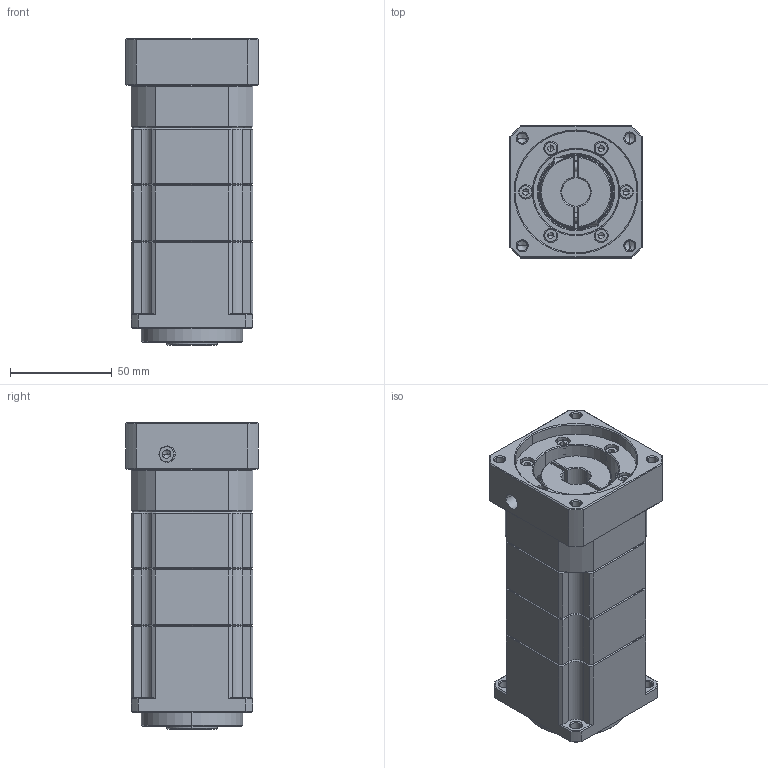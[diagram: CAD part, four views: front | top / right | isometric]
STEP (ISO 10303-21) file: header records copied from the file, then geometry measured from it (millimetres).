
FILE_DESCRIPTION (( 'STEP AP214' ), '1' );
FILE_NAME ('ZPB060-K16-L3-P1-14-60-75-M6.step', '2024-04-24T07:37:46', ( '' ), ( '' ), 'SwSTEP 2.0', 'SolidWorks 2016', '' );
FILE_SCHEMA (( 'AUTOMOTIVE_DESIGN' ));
Length unit declared in the file: millimetre
Products named in the file (1): ZPB060-K16-L3-P1-14-60-75-M6
Bounding box: 65 x 65 x 151 mm (x, y, z)
Volume: 438373.1 mm3; surface area: 86472.5 mm2
Topology: 16 solids, 17 shells, 2096 faces, 5809 edges, 3727 vertices
Faces by surface type: plane 1113, bspline 366, cylinder 273, cone 202, torus 96, sphere 46
Entity records: 105586 total; most frequent: CARTESIAN_POINT 32216, ORIENTED_EDGE 11316, DIRECTION 8920, EDGE_CURVE 5658, VERTEX_POINT 3658, VECTOR 3402, LINE 3402, AXIS2_PLACEMENT_3D 2759
